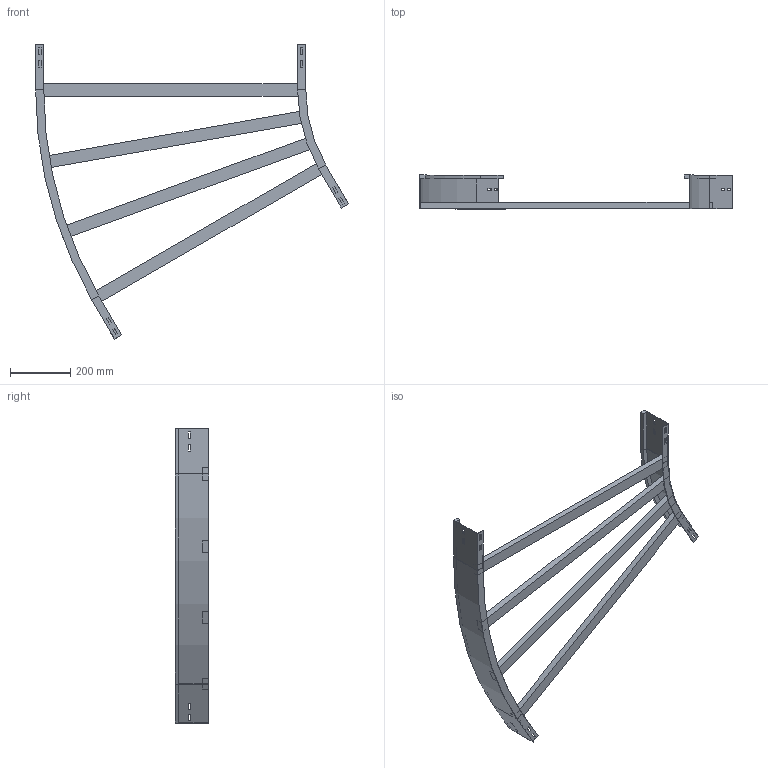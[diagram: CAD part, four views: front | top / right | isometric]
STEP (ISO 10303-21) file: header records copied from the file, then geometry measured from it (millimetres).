
FILE_DESCRIPTION (( 'STEP AP214' ), '1' );
FILE_NAME ('12B5J900.step', '2025-02-21T15:08:41', ( '' ), ( '' ), 'SwSTEP 2.0', 'SolidWorks 2023', '' );
FILE_SCHEMA (( 'AUTOMOTIVE_DESIGN' ));
Length unit declared in the file: millimetre
Products named in the file (4): TRAVERSINO_900; A2_LONGH.ESTERNO 30°_H112.5_R500+900; 12B5J900; A2_LONGH.INTERNO 30°_H112.5_R500
Assembly tree (6 placements, depth 2):
  12B5J900
    A2_LONGH.INTERNO 30°_H112.5_R500
    A2_LONGH.ESTERNO 30°_H112.5_R500+900
    TRAVERSINO_900  x4
Bounding box: 1041.99 x 112.5 x 979.9 mm (x, y, z)
Volume: 3642901.2 mm3; surface area: 934934.5 mm2
Topology: 6 solids, 6 shells, 140 faces, 352 edges, 224 vertices
Faces by surface type: plane 132, cylinder 8
Entity records: 3829 total; most frequent: CARTESIAN_POINT 647, ORIENTED_EDGE 632, DIRECTION 594, EDGE_CURVE 316, VECTOR 300, LINE 300, VERTEX_POINT 200, EDGE_LOOP 154
